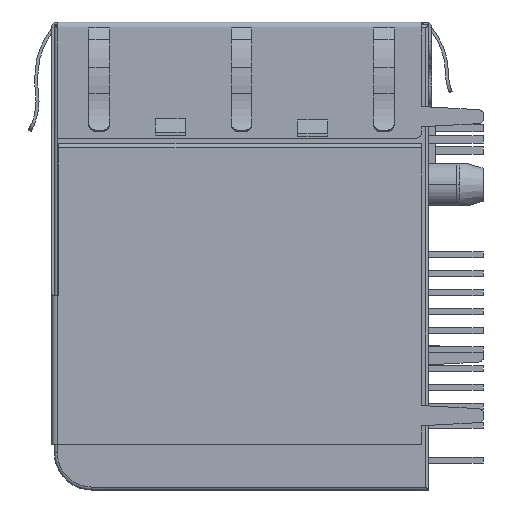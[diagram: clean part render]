
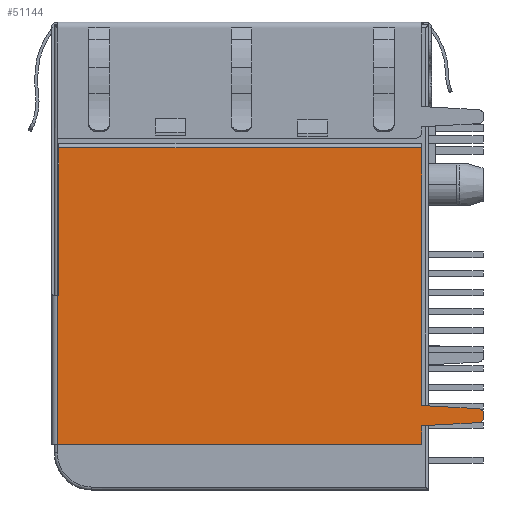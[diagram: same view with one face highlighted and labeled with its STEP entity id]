
A CAD part, left-side view. The second image highlights one B-rep face of the part: STEP entity #51144.
In plain terms, the highlighted planar face has unit normal (-1, 0, 0).
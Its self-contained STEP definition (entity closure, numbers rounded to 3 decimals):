
#637 = DIRECTION ( 'NONE',  ( -1., 0., 0. ) ) ;
#852 = EDGE_CURVE ( 'NONE', #31125, #27333, #52880, .T. ) ;
#922 = CARTESIAN_POINT ( 'NONE',  ( -15.75, 12.36, -2.55 ) ) ;
#1353 = VERTEX_POINT ( 'NONE', #20386 ) ;
#1570 = LINE ( 'NONE', #31713, #7314 ) ;
#2746 = EDGE_CURVE ( 'NONE', #35728, #31125, #32731, .T. ) ;
#2817 = ORIENTED_EDGE ( 'NONE', *, *, #44437, .T. ) ;
#4929 = EDGE_CURVE ( 'NONE', #39087, #45463, #42113, .T. ) ;
#5109 = ORIENTED_EDGE ( 'NONE', *, *, #852, .T. ) ;
#5315 = DIRECTION ( 'NONE',  ( 0., -1., 0. ) ) ;
#5321 = EDGE_CURVE ( 'NONE', #49535, #38174, #13282, .T. ) ;
#5871 = CARTESIAN_POINT ( 'NONE',  ( -15.75, -16.262, -10.681 ) ) ;
#7314 = VECTOR ( 'NONE', #32554, 1000. ) ;
#8302 = PLANE ( 'NONE',  #32779 ) ;
#8427 = VECTOR ( 'NONE', #5315, 1000. ) ;
#8627 = CARTESIAN_POINT ( 'NONE',  ( -15.75, -12.08, -11.289 ) ) ;
#9418 = EDGE_CURVE ( 'NONE', #38090, #50810, #34782, .T. ) ;
#10286 = LINE ( 'NONE', #19860, #16214 ) ;
#11414 = ORIENTED_EDGE ( 'NONE', *, *, #2746, .T. ) ;
#11780 = VERTEX_POINT ( 'NONE', #20733 ) ;
#13282 = LINE ( 'NONE', #30479, #13736 ) ;
#13736 = VECTOR ( 'NONE', #39214, 1000. ) ;
#14073 = VECTOR ( 'NONE', #20995, 1000. ) ;
#14195 = DIRECTION ( 'NONE',  ( 0., 0., 1. ) ) ;
#14297 = LINE ( 'NONE', #30943, #8427 ) ;
#14610 = EDGE_CURVE ( 'NONE', #50810, #1353, #10286, .T. ) ;
#15201 = ORIENTED_EDGE ( 'NONE', *, *, #9418, .T. ) ;
#15422 = EDGE_CURVE ( 'NONE', #38174, #18314, #42231, .T. ) ;
#16214 = VECTOR ( 'NONE', #40427, 1000. ) ;
#16362 = VECTOR ( 'NONE', #25836, 1000. ) ;
#17104 = LINE ( 'NONE', #31165, #16362 ) ;
#17453 = CARTESIAN_POINT ( 'NONE',  ( -15.75, -12.08, -12.55 ) ) ;
#17705 = CARTESIAN_POINT ( 'NONE',  ( -15.75, -12.08, 7.35 ) ) ;
#17790 = LINE ( 'NONE', #48766, #34979 ) ;
#17850 = DIRECTION ( 'NONE',  ( -1., 0., 0. ) ) ;
#18314 = VERTEX_POINT ( 'NONE', #49565 ) ;
#18420 = DIRECTION ( 'NONE',  ( 0., 0., 1. ) ) ;
#19860 = CARTESIAN_POINT ( 'NONE',  ( -15.75, -11.563, -11.318 ) ) ;
#20386 = CARTESIAN_POINT ( 'NONE',  ( -15.75, -15.884, -11.081 ) ) ;
#20733 = CARTESIAN_POINT ( 'NONE',  ( -15.75, -12.08, -9.931 ) ) ;
#20763 = CARTESIAN_POINT ( 'NONE',  ( -15.75, 12.26, -2.55 ) ) ;
#20995 = DIRECTION ( 'NONE',  ( 0., 0., -1. ) ) ;
#21986 = EDGE_CURVE ( 'NONE', #45463, #38090, #14297, .T. ) ;
#22517 = EDGE_LOOP ( 'NONE', ( #2817, #26909, #11414, #5109, #23023, #55400, #39192, #15201, #25722, #23572, #29823, #41638 ) ) ;
#23023 = ORIENTED_EDGE ( 'NONE', *, *, #47512, .T. ) ;
#23572 = ORIENTED_EDGE ( 'NONE', *, *, #31062, .T. ) ;
#24400 = AXIS2_PLACEMENT_3D ( 'NONE', #31361, #17850, #18420 ) ;
#25722 = ORIENTED_EDGE ( 'NONE', *, *, #14610, .T. ) ;
#25836 = DIRECTION ( 'NONE',  ( 0., 0.999, 0.055 ) ) ;
#26909 = ORIENTED_EDGE ( 'NONE', *, *, #49954, .T. ) ;
#27333 = VERTEX_POINT ( 'NONE', #20763 ) ;
#29164 = CARTESIAN_POINT ( 'NONE',  ( -15.75, 0., 15.8 ) ) ;
#29338 = DIRECTION ( 'NONE',  ( 0., 1., 0. ) ) ;
#29823 = ORIENTED_EDGE ( 'NONE', *, *, #5321, .T. ) ;
#30479 = CARTESIAN_POINT ( 'NONE',  ( -15.75, -16.262, -10.681 ) ) ;
#30943 = CARTESIAN_POINT ( 'NONE',  ( -15.75, -12.08, -12.55 ) ) ;
#31049 = DIRECTION ( 'NONE',  ( 0., 0., 1. ) ) ;
#31062 = EDGE_CURVE ( 'NONE', #1353, #49535, #48669, .T. ) ;
#31125 = VERTEX_POINT ( 'NONE', #39551 ) ;
#31165 = CARTESIAN_POINT ( 'NONE',  ( -15.75, -15.884, -10.139 ) ) ;
#31361 = CARTESIAN_POINT ( 'NONE',  ( -15.75, -15.862, -10.681 ) ) ;
#31713 = CARTESIAN_POINT ( 'NONE',  ( -15.75, -12.08, 15.4 ) ) ;
#32554 = DIRECTION ( 'NONE',  ( 0., 0., 1. ) ) ;
#32731 = LINE ( 'NONE', #45671, #50555 ) ;
#32779 = AXIS2_PLACEMENT_3D ( 'NONE', #29164, #46889, #41564 ) ;
#34782 = LINE ( 'NONE', #48017, #43086 ) ;
#34979 = VECTOR ( 'NONE', #52423, 1000. ) ;
#35728 = VERTEX_POINT ( 'NONE', #17705 ) ;
#36114 = CARTESIAN_POINT ( 'NONE',  ( -15.75, -15.862, -10.539 ) ) ;
#38090 = VERTEX_POINT ( 'NONE', #17453 ) ;
#38174 = VERTEX_POINT ( 'NONE', #50698 ) ;
#39087 = VERTEX_POINT ( 'NONE', #922 ) ;
#39192 = ORIENTED_EDGE ( 'NONE', *, *, #21986, .T. ) ;
#39214 = DIRECTION ( 'NONE',  ( 0., 0., 1. ) ) ;
#39551 = CARTESIAN_POINT ( 'NONE',  ( -15.75, 12.26, 7.35 ) ) ;
#40427 = DIRECTION ( 'NONE',  ( 0., -0.999, 0.055 ) ) ;
#40446 = CARTESIAN_POINT ( 'NONE',  ( -15.75, 12.36, -12.55 ) ) ;
#41564 = DIRECTION ( 'NONE',  ( 0., 0., 1. ) ) ;
#41638 = ORIENTED_EDGE ( 'NONE', *, *, #15422, .T. ) ;
#42113 = LINE ( 'NONE', #55327, #14073 ) ;
#42231 = CIRCLE ( 'NONE', #43155, 0.4 ) ;
#43086 = VECTOR ( 'NONE', #14195, 1000. ) ;
#43155 = AXIS2_PLACEMENT_3D ( 'NONE', #36114, #637, #31049 ) ;
#43364 = CARTESIAN_POINT ( 'NONE',  ( -15.75, 12.26, -2.55 ) ) ;
#44437 = EDGE_CURVE ( 'NONE', #18314, #11780, #17104, .T. ) ;
#45463 = VERTEX_POINT ( 'NONE', #40446 ) ;
#45671 = CARTESIAN_POINT ( 'NONE',  ( -15.75, 0., 7.35 ) ) ;
#46889 = DIRECTION ( 'NONE',  ( -1., 0., 0. ) ) ;
#47512 = EDGE_CURVE ( 'NONE', #27333, #39087, #17790, .T. ) ;
#48017 = CARTESIAN_POINT ( 'NONE',  ( -15.75, -12.08, 15.4 ) ) ;
#48669 = CIRCLE ( 'NONE', #24400, 0.4 ) ;
#48690 = DIRECTION ( 'NONE',  ( 0., 0., -1. ) ) ;
#48766 = CARTESIAN_POINT ( 'NONE',  ( -15.75, 12.56, -2.55 ) ) ;
#49535 = VERTEX_POINT ( 'NONE', #5871 ) ;
#49565 = CARTESIAN_POINT ( 'NONE',  ( -15.75, -15.884, -10.139 ) ) ;
#49954 = EDGE_CURVE ( 'NONE', #11780, #35728, #1570, .T. ) ;
#50255 = FACE_OUTER_BOUND ( 'NONE', #22517, .T. ) ;
#50555 = VECTOR ( 'NONE', #29338, 1000. ) ;
#50698 = CARTESIAN_POINT ( 'NONE',  ( -15.75, -16.262, -10.539 ) ) ;
#50810 = VERTEX_POINT ( 'NONE', #8627 ) ;
#51144 = ADVANCED_FACE ( 'NONE', ( #50255 ), #8302, .T. ) ;
#52423 = DIRECTION ( 'NONE',  ( 0., 1., 0. ) ) ;
#52880 = LINE ( 'NONE', #43364, #54914 ) ;
#54914 = VECTOR ( 'NONE', #48690, 1000. ) ;
#55327 = CARTESIAN_POINT ( 'NONE',  ( -15.75, 12.36, 15.8 ) ) ;
#55400 = ORIENTED_EDGE ( 'NONE', *, *, #4929, .T. ) ;
